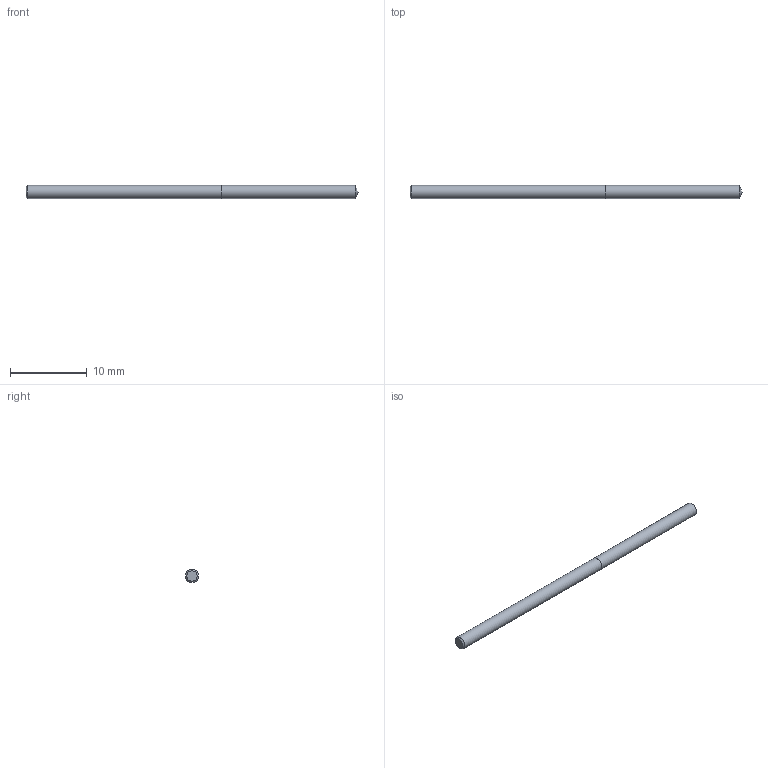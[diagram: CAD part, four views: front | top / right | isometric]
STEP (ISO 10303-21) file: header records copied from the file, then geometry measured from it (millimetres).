
FILE_DESCRIPTION (( 'STEP AP214' ), '1' );
FILE_NAME ('03-2393.STEP', '2022-06-03T07:10:07', ( 'USER' ), ( '' ), 'SwSTEP 2.0', 'SolidWorks 2018', '' );
FILE_SCHEMA (( 'AUTOMOTIVE_DESIGN' ));
Length unit declared in the file: inch
Products named in the file (1): 03-2393
Bounding box: 43.22 x 1.7 x 1.7 mm (x, y, z)
Volume: 97.7 mm3; surface area: 237.9 mm2
Topology: 2 solids, 2 shells, 7 faces, 11 edges, 7 vertices
Faces by surface type: plane 3, cylinder 2, cone 2
Full cylindrical faces by diameter (mm): 1.702 x2
Entity records: 214 total; most frequent: DIRECTION 26, CARTESIAN_POINT 18, AXIS2_PLACEMENT_3D 13, ORIENTED_EDGE 10, EDGE_LOOP 10, FACE_OUTER_BOUND 9, LENGTH_MEASURE_WITH_UNIT 7, ADVANCED_FACE 7
